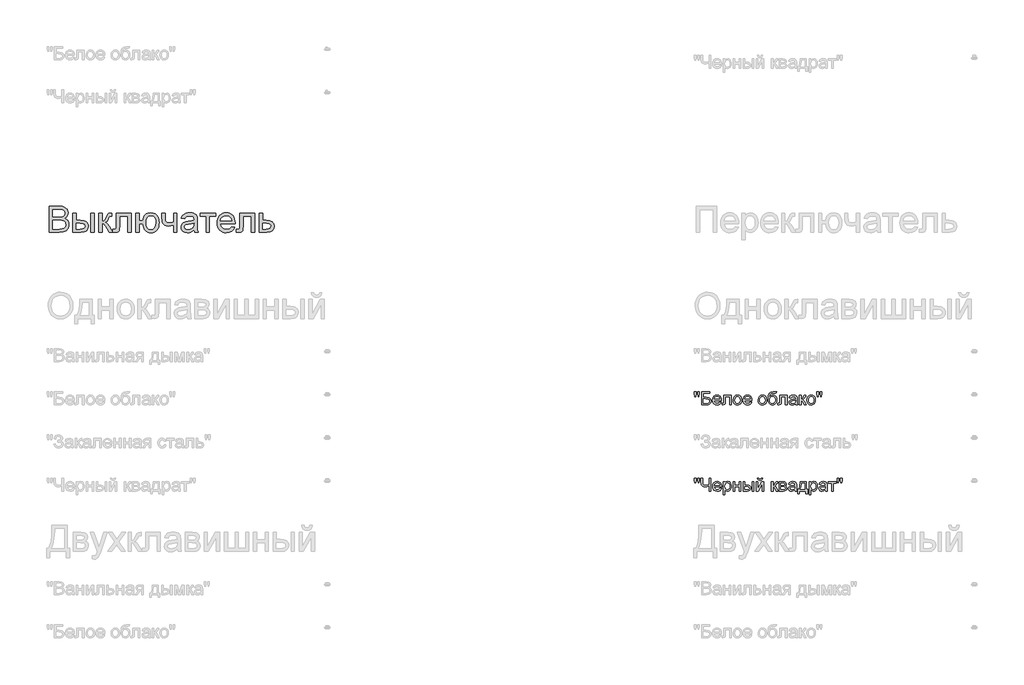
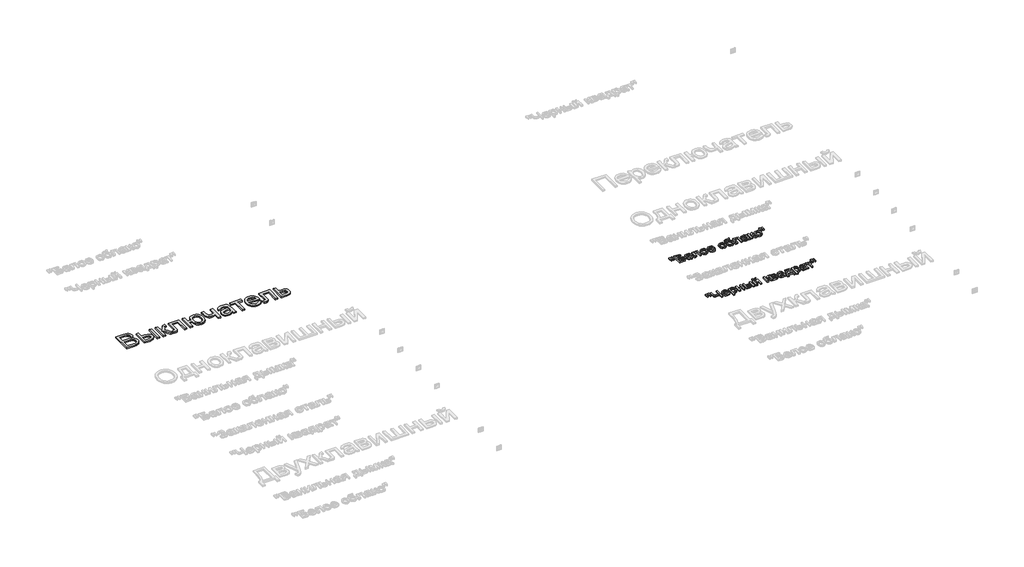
# One storey, part 137 of 168: 3 proxies.
"""IFC4 building model written with IfcOpenShell, lengths in millimetres."""

import ifcopenshell
import ifcopenshell.guid

model = None  # the IFC model being written
_history = None  # IfcOwnerHistory: only IFC2X3 demands one
_inside = {}  # id of a spatial element -> (the spatial element, [elements in it])
_under = {}  # id of a project, library or spatial element -> (it, [spatial elements below it])
_declared = {}  # id of a project -> (the project, [libraries it declares])
_typed = {}  # id of a type object -> (the type object, [elements of that type])
_made_of = {}  # id of a material, layer set ... -> (it, [elements and type objects made of it])


def new_model(schema):
    """Start an empty IFC model of exactly this schema.

    Asked for "IFC4X3", IfcOpenShell would pick the latest addendum, in which some entities
    have other attributes; the version numbers below select the first issue.
    IFC2X3 requires an IfcOwnerHistory on every rooted entity: one is made here for all.
    """
    global model, _history
    if schema == "IFC4X3":
        model = ifcopenshell.file(schema_version=(4, 3, 0, 0))
    else:
        model = ifcopenshell.file(schema=schema)
    _inside.clear()
    _under.clear()
    _declared.clear()
    _typed.clear()
    _made_of.clear()
    _history = None
    if model.schema == "IFC2X3":
        org = make("IfcOrganization", Name="unknown")
        user = make(
            "IfcPersonAndOrganization",
            ThePerson=make("IfcPerson", FamilyName="unknown"),
            TheOrganization=org,
        )
        app = make(
            "IfcApplication",
            ApplicationDeveloper=org,
            Version="unknown",
            ApplicationFullName="unknown",
            ApplicationIdentifier="unknown",
        )
        _history = make(
            "IfcOwnerHistory",
            OwningUser=user,
            OwningApplication=app,
            ChangeAction="ADDED",
            CreationDate=0,
        )
    return model


def make(cls, **values):
    """One entity of the class cls with the attributes given. An attribute that is None is left unset."""
    return model.create_entity(
        cls, **{name: value for name, value in values.items() if value is not None}
    )


def rooted(cls, **values):
    """An entity with a GlobalId (a new one), such as an element, a storey or a relation."""
    return make(cls, GlobalId=ifcopenshell.guid.new(), OwnerHistory=_history, **values)


def si_unit(unit_type, name, prefix=None):
    """IfcSIUnit, for example si_unit("LENGTHUNIT", "METRE", prefix="MILLI")."""
    return make("IfcSIUnit", UnitType=unit_type, Prefix=prefix, Name=name)


def assignment(units):
    """IfcUnitAssignment: the units of a project."""
    return None if units is None else make("IfcUnitAssignment", Units=units)


def point(xyz):
    """IfcCartesianPoint."""
    return None if xyz is None else make("IfcCartesianPoint", Coordinates=xyz)


def direction(xyz):
    """IfcDirection."""
    return None if xyz is None else make("IfcDirection", DirectionRatios=xyz)


def frame(location, z_axis=None, x_axis=None):
    """IfcAxis2Placement3D, a coordinate frame: its origin and axes. An axis left out is left unset."""
    return make(
        "IfcAxis2Placement3D",
        Location=point(location),
        Axis=direction(z_axis),
        RefDirection=direction(x_axis),
    )


def origin():
    """The frame at (0, 0, 0) with its axes left unset."""
    return frame((0.0, 0.0, 0.0))


def origin_with_axes():
    """The frame at (0, 0, 0) with the z axis (0, 0, 1) and the x axis (1, 0, 0) written out."""
    return frame((0.0, 0.0, 0.0), z_axis=(0.0, 0.0, 1.0), x_axis=(1.0, 0.0, 0.0))


def place(relative_to, where):
    """IfcLocalPlacement: puts the frame where relative to a parent placement (None: the world)."""
    return make(
        "IfcLocalPlacement", PlacementRelTo=relative_to, RelativePlacement=where
    )


def context(
    kind, dimensions, precision=None, world=None, true_north=None, identifier=None
):
    """IfcGeometricRepresentationContext, for example the 3D "Model" context."""
    return make(
        "IfcGeometricRepresentationContext",
        ContextIdentifier=identifier,
        ContextType=kind,
        CoordinateSpaceDimension=dimensions,
        Precision=precision,
        WorldCoordinateSystem=world,
        TrueNorth=true_north,
    )


def project(units=None, contexts=None):
    """IfcProject with its units and contexts."""
    return rooted(
        "IfcProject",
        Name="project",
        RepresentationContexts=contexts,
        UnitsInContext=assignment(units),
    )


def spatial(cls, under=None, at=None, **own):
    """A site, building, storey or space (cls), placed at a placement, below another one or the project."""
    s = rooted(cls, ObjectPlacement=at, **own)
    if under is not None:
        _under.setdefault(under.id(), (under, []))[1].append(s)
    return s


def polyline(points):
    """IfcPolyline through the points."""
    return make("IfcPolyline", Points=[point(p) for p in points])


def outline(outer, holes=None, kind="AREA"):
    """IfcArbitraryClosedProfileDef: a profile drawn as a closed curve; with holes, ...WithVoids."""
    if holes is None:
        return make("IfcArbitraryClosedProfileDef", ProfileType=kind, OuterCurve=outer)
    return make(
        "IfcArbitraryProfileDefWithVoids",
        ProfileType=kind,
        OuterCurve=outer,
        InnerCurves=holes,
    )


def extrude(swept, where, along, depth):
    """IfcExtrudedAreaSolid: the profile swept, set in the frame where, extruded along a direction by depth."""
    return make(
        "IfcExtrudedAreaSolid",
        SweptArea=swept,
        Position=where,
        ExtrudedDirection=direction(along),
        Depth=depth,
    )


def shape(context_of_items, identifier, shape_type, items):
    """IfcShapeRepresentation: the items that make up one representation, for example the "Body"."""
    return make(
        "IfcShapeRepresentation",
        ContextOfItems=context_of_items,
        RepresentationIdentifier=identifier,
        RepresentationType=shape_type,
        Items=items,
    )


def made_of(thing, what):
    """Note that an element or type object is made of a material, layer set ...; save() writes the relation."""
    if what is not None:
        _made_of.setdefault(what.id(), (what, []))[1].append(thing)
    return thing


def element(
    cls,
    number,
    at=None,
    inside=None,
    cuts=None,
    type_object=None,
    material=None,
    context=None,
    identifier="Body",
    shape_type=None,
    held_by="IfcProductDefinitionShape",
    body=None,
    shapes=None,
    **own,
):
    """One element of the class cls, such as IfcWall. Its Tag is "e" and its number.

    at: its placement. inside: the storey or other place that contains it. cuts: it is an
    opening in that element (IfcRelVoidsElement). A single representation is given by context,
    identifier, shape_type and body (its items); several are given by shapes. held_by: the class
    of the entity that holds the representations. save() writes the other relations.
    """
    e = rooted(cls, Tag="e%d" % number, ObjectPlacement=at, **own)
    if body is not None:
        shapes = [shape(context, identifier, shape_type, body)]
    if shapes is not None:
        e.Representation = make(held_by, Representations=shapes)
    if inside is not None:
        _inside.setdefault(inside.id(), (inside, []))[1].append(e)
    if cuts is not None:
        rooted(
            "IfcRelVoidsElement", RelatingBuildingElement=cuts, RelatedOpeningElement=e
        )
    if type_object is not None:
        _typed.setdefault(type_object.id(), (type_object, []))[1].append(e)
    return made_of(e, material)


def aggregate(whole, parts):
    """IfcRelAggregates: a whole, such as a stair, and the parts it consists of."""
    return rooted("IfcRelAggregates", RelatingObject=whole, RelatedObjects=parts)


def save(model, path):
    """Write the relations noted so far, then the file.

    IfcRelAggregates (storeys below a building ...), IfcRelContainedInSpatialStructure (elements
    in a storey), IfcRelDefinesByType, IfcRelAssociatesMaterial and IfcRelDeclares: one each for
    every whole, place, type object, material and project.
    """
    for whole, parts in _under.values():
        aggregate(whole, parts)
    for where, things in _inside.values():
        rooted(
            "IfcRelContainedInSpatialStructure",
            RelatedElements=things,
            RelatingStructure=where,
        )
    for kind, things in _typed.values():
        rooted("IfcRelDefinesByType", RelatedObjects=things, RelatingType=kind)
    for what, things in _made_of.values():
        rooted("IfcRelAssociatesMaterial", RelatedObjects=things, RelatingMaterial=what)
    for by, libraries in _declared.values():
        rooted("IfcRelDeclares", RelatingContext=by, RelatedDefinitions=libraries)
    model.write(path)


model = new_model("IFC4")

# Units and contexts
model_context = context("Model", 3, world=origin())
ifc_project = project(units=[si_unit("LENGTHUNIT", "METRE", prefix="MILLI")], contexts=[model_context])

# Site, building, storey
site = spatial("IfcSite", under=ifc_project)
building = spatial("IfcBuilding", under=site)
storey = spatial("IfcBuildingStorey", under=building, Name="Этаж 01", Elevation=0.0)

# Proxies
placement = place(None, origin())
element("IfcBuildingElementProxy", 1, Name="300 мм Arial 2", ObjectType="300 мм Arial 2", at=placement, inside=storey, context=model_context, shape_type="SweptSolid", body=[
    extrude(outline(polyline([(63599.0945017, -19848.4056816), (63599.0945017, -19547.0367511), (63714.0944134, -19547.0367511), (63745.7230679, -19549.2532401), (63770.4171468, -19555.9027072), (63789.3446755, -19567.1506992), (63803.6736792, -19583.162763), (63812.6959851, -19601.9983212), (63815.7034204, -19621.7167961), (63813.1742317, -19639.8625756), (63805.5866656, -19656.9231031), (63792.8855397, -19671.849915), (63775.0156718, -19683.5945477), (63796.3620245, -19694.7413722), (63812.1349651, -19711.7007322), (63821.8746409, -19733.3505876), (63825.1211995, -19758.5688983), (63822.9047105, -19779.5841573), (63816.2552434, -19799.072706), (63806.3316266, -19815.6457899), (63794.2926883, -19827.9146544), (63779.5498173, -19836.7990046), (63761.5144025, -19843.2185454), (63713.2114966, -19848.4056816), (63599.0945017, -19848.4056816)]), holes=[polyline([(63636.765618, -19669.4678791), (63705.5595511, -19669.4678791), (63745.7322649, -19666.2305176), (63759.7945542, -19660.6479083), (63769.902112, -19652.2877899), (63775.9997561, -19641.2789212), (63778.0323041, -19627.7500609), (63776.1377118, -19614.6166736), (63770.453935, -19603.1755436), (63761.238491, -19594.2452082), (63748.7488973, -19588.6442048), (63700.3356267, -19584.7078674), (63636.765618, -19584.7078674), (63636.765618, -19669.4678791)]), polyline([(63636.765618, -19810.7345653), (63714.020837, -19810.7345653), (63741.9798686, -19809.2630373), (63765.6346809, -19801.0592688), (63781.3064539, -19784.320638), (63785.9141759, -19772.4932319), (63787.4500832, -19758.9367803), (63785.6474614, -19743.1914309), (63780.2395961, -19729.6533735), (63770.7942259, -19719.0675691), (63756.8790894, -19712.1789788), (63737.1698115, -19708.3989913), (63710.342017, -19707.1389954), (63636.765618, -19707.1389954), (63636.765618, -19810.7345653)])]), origin_with_axes(), (0.0, 0.0, 1.0), 20.0),
    extrude(outline(polyline([(64079.4012346, -19627.0878733), (64117.0723509, -19627.0878733), (64117.0723509, -19848.4056816), (64079.4012346, -19848.4056816), (64079.4012346, -19627.0878733)])), origin_with_axes(), (0.0, 0.0, 1.0), 20.0),
    extrude(outline(polyline([(63872.2100949, -19627.0878733), (63909.8812112, -19627.0878733), (63909.8812112, -19707.1389954), (63956.4550718, -19707.1389954), (63996.7105591, -19711.857082), (64012.9272573, -19717.7546902), (64026.5365919, -19726.0113418), (64037.304038, -19736.3419281), (64044.995071, -19748.4613405), (64049.6096907, -19762.3695792), (64051.1478973, -19778.0666441), (64045.9883523, -19805.0231973), (64030.5097174, -19827.7675016), (64018.6478223, -19836.7967054), (64003.700317, -19843.2461366), (63964.5484757, -19848.4056816), (63872.2100949, -19848.4056816), (63872.2100949, -19627.0878733)]), holes=[polyline([(63909.8812112, -19810.7345653), (63948.5823971, -19810.7345653), (63978.5831738, -19808.7571995), (63998.540772, -19802.8251024), (64009.7427788, -19792.6991504), (64013.476781, -19778.1402205), (64010.708469, -19765.8345678), (64002.403533, -19754.9636548), (63984.6440297, -19747.3484975), (63953.5120158, -19744.8101117), (63909.8812112, -19744.8101117), (63909.8812112, -19810.7345653)])]), origin_with_axes(), (0.0, 0.0, 1.0), 20.0),
    extrude(outline(polyline([(64376.0612755, -19627.0878733), (64545.5812988, -19627.0878733), (64545.5812988, -19848.1849524), (64507.9101825, -19848.1849524), (64507.9101825, -19664.7589896), (64413.7323918, -19664.7589896), (64413.7323918, -19770.3411222), (64411.194006, -19819.0486984), (64406.4391312, -19830.0759612), (64397.2512784, -19839.6133019), (64383.3085508, -19846.2075866), (64364.2890516, -19848.4056816), (64333.6812696, -19846.4926952), (64333.6812696, -19810.7345653), (64350.530265, -19810.7345653), (64367.5632014, -19808.4169087), (64374.3690183, -19801.0592688), (64376.0612755, -19768.2074066), (64376.0612755, -19627.0878733)])), origin_with_axes(), (0.0, 0.0, 1.0), 20.0),
    extrude(outline(polyline([(64173.5790253, -19627.0878733), (64211.2501416, -19627.0878733), (64211.2501416, -19721.265664), (64226.5724267, -19719.5734069), (64236.4868465, -19714.4966353), (64245.2608321, -19701.2528835), (64257.1618146, -19675.0596854), (64274.3419038, -19641.0306009), (64289.498642, -19629.9573528), (64317.0530034, -19627.0878733), (64324.2634906, -19627.0878733), (64324.2634906, -19664.9797188), (64314.1099475, -19664.7589896), (64295.7158477, -19668.7321151), (64282.7664015, -19693.5273616), (64267.5728751, -19720.345959), (64246.2725076, -19733.4793463), (64258.2102783, -19738.7814455), (64270.0376845, -19748.1394438), (64293.361403, -19779.0231373), (64333.6812696, -19848.4056816), (64290.8598054, -19848.4056816), (64251.3492791, -19780.4946653), (64231.4836514, -19751.7630814), (64222.194631, -19746.5483542), (64211.2501416, -19744.8101117), (64211.2501416, -19848.4056816), (64173.5790253, -19848.4056816), (64173.5790253, -19627.0878733)])), origin_with_axes(), (0.0, 0.0, 1.0), 20.0),
    extrude(outline(polyline([(64602.0879733, -19627.0878733), (64639.7590896, -19627.0878733), (64639.7590896, -19711.847885), (64682.1390955, -19711.847885), (64691.9155595, -19673.4410047), (64700.4389255, -19658.1003255), (64711.3857141, -19645.3348202), (64724.4478242, -19635.2916418), (64739.3171546, -19628.1179429), (64774.4774762, -19622.3789837), (64804.0275975, -19625.754301), (64826.606355, -19635.880253), (64844.0255674, -19651.929105), (64858.0970538, -19673.0731227), (64867.3952712, -19700.8850015), (64870.494677, -19736.937437), (64868.892091, -19763.7928227), (64864.0843332, -19787.1901176), (64856.0714035, -19807.1293217), (64844.8533019, -19823.6104351), (64830.8898809, -19836.5184946), (64814.6409931, -19845.7385371), (64796.1066383, -19851.2705626), (64775.2868166, -19853.1145711), (64755.8833407, -19851.3855257), (64738.5078142, -19846.1983896), (64723.1602372, -19837.5531627), (64709.8406097, -19825.4498451), (64698.8800255, -19810.3298951), (64690.6095784, -19792.6347711), (64682.1390955, -19749.5190013), (64639.7590896, -19749.5190013), (64639.7590896, -19848.4056816), (64602.0879733, -19848.4056816), (64602.0879733, -19627.0878733)]), holes=[polyline([(64776.9054974, -19660.0501), (64752.8920002, -19664.9245365), (64734.8565854, -19679.5478458), (64723.5718052, -19702.9635348), (64719.8102118, -19734.2151103), (64723.5993963, -19770.6262307), (64734.96695, -19795.8353445), (64752.680468, -19810.5414272), (64775.5075458, -19815.4434548), (64798.399003, -19810.9093092), (64816.7471175, -19797.3068724), (64828.8044499, -19773.6060749), (64832.8235607, -19738.776847), (64829.3470758, -19704.3338952), (64818.9176213, -19679.7317868), (64801.4616206, -19664.9705217), (64776.9054974, -19660.0501)])]), origin_with_axes(), (0.0, 0.0, 1.0), 20.0),
    extrude(outline(polyline([(64903.4569038, -19627.0878733), (64941.1280201, -19627.0878733), (64941.1280201, -19669.5414555), (64944.1814406, -19709.3462874), (64949.3777738, -19720.9161761), (64958.8599322, -19730.9041723), (64971.9565313, -19737.8019597), (64987.9961862, -19740.1012222), (65011.0439932, -19737.2501367), (65040.0147004, -19728.6968803), (65040.0147004, -19627.0878733), (65077.6858167, -19627.0878733), (65077.6858167, -19848.4056816), (65040.0147004, -19848.4056816), (65040.0147004, -19764.8228923), (65007.861814, -19774.5349769), (64977.9162196, -19777.7723385), (64955.135127, -19774.3970212), (64935.2051199, -19764.2710693), (64919.6713027, -19749.2522868), (64910.0787797, -19731.1984779), (64905.1123727, -19710.6522685), (64903.4569038, -19688.1562845), (64903.4569038, -19627.0878733)])), origin_with_axes(), (0.0, 0.0, 1.0), 20.0),
    extrude(outline(polyline([(65275.4591773, -19820.1523443), (65257.4605507, -19835.584994), (65238.9284952, -19845.6833548), (65219.4399465, -19851.256767), (65198.5718403, -19853.1145711), (65167.0903386, -19848.6448049), (65143.8677876, -19835.2355061), (65129.5479809, -19814.8732377), (65124.7747121, -19789.5445623), (65126.5773338, -19773.9279716), (65131.9851992, -19759.7461207), (65140.3269234, -19747.6060149), (65150.9311219, -19738.1146594), (65177.308261, -19725.7538244), (65209.9026057, -19720.0884417), (65248.4198506, -19714.1287533), (65275.2384481, -19707.1389954), (65275.4591773, -19698.7512859), (65272.8656092, -19681.9390788), (65265.084905, -19670.9394071), (65247.6840866, -19662.7724268), (65223.4406632, -19660.0501), (65200.9998615, -19661.8619189), (65185.3280885, -19667.2973753), (65174.6411165, -19677.3497509), (65167.1547179, -19693.0123268), (65129.4836016, -19688.3034373), (65136.0227041, -19667.7020455), (65145.780774, -19651.5152378), (65159.6683193, -19639.1360086), (65178.5958479, -19629.9573528), (65201.7448225, -19624.273576), (65228.2967055, -19622.3789837), (65253.7633366, -19624.0528468), (65273.9508611, -19629.074436), (65289.1719786, -19636.625214), (65299.739389, -19645.8866432), (65306.747541, -19657.3369703), (65311.2908836, -19671.4544419), (65313.1302936, -19704.4166687), (65313.1302936, -19751.2848348), (65315.04328, -19816.7310418), (65322.5480727, -19848.4056816), (65284.8769564, -19848.4056816), (65275.4591773, -19820.1523443)]), holes=[polyline([(65275.4591773, -19744.8101117), (65214.6850717, -19756.3616064), (65182.2746679, -19762.4684475), (65167.5961763, -19772.4012614), (65162.4458284, -19786.895812), (65165.2509286, -19798.0978187), (65173.6662292, -19807.2764745), (65187.5077893, -19813.4017097), (65206.5916678, -19815.4434548), (65226.8251775, -19813.1901776), (65244.7042425, -19806.4303459), (65259.1987931, -19796.4699409), (65269.2787598, -19784.6149436), (65273.748526, -19772.4012614), (65275.2384481, -19755.4786896), (65275.4591773, -19744.8101117)])]), origin_with_axes(), (0.0, 0.0, 1.0), 20.0),
    extrude(outline(polyline([(65346.0925204, -19627.0878733), (65525.0303228, -19627.0878733), (65525.0303228, -19664.7589896), (65454.3969797, -19664.7589896), (65454.3969797, -19848.4056816), (65416.7258634, -19848.4056816), (65416.7258634, -19664.7589896), (65346.0925204, -19664.7589896), (65346.0925204, -19627.0878733)])), origin_with_axes(), (0.0, 0.0, 1.0), 20.0),
    extrude(outline(polyline([(65712.9444459, -19782.481228), (65749.8797983, -19787.1901176), (65736.5716671, -19815.0203905), (65715.3356789, -19835.8241173), (65686.6500803, -19848.7919577), (65650.993118, -19853.1145711), (65627.6188157, -19851.2498692), (65606.7920962, -19845.6557637), (65588.5129596, -19836.3322543), (65572.7814058, -19823.2793413), (65560.1308637, -19806.860308), (65551.0947622, -19787.4384379), (65545.6731013, -19765.013731), (65543.865881, -19739.5861874), (65545.6914954, -19713.2964203), (65551.1683386, -19690.1244531), (65560.2964106, -19670.0702859), (65573.0757114, -19653.1339185), (65588.7658785, -19639.6786346), (65606.6265493, -19630.0677174), (65626.657724, -19624.3011672), (65648.8594024, -19622.3789837), (65670.3460102, -19624.2965686), (65689.7770773, -19630.0493233), (65707.1526038, -19639.6372478), (65722.4725896, -19653.0603421), (65734.9782782, -19669.9599213), (65743.9109129, -19689.9773003), (65749.2704937, -19713.1124793), (65751.0570206, -19739.3654582), (65750.8362914, -19749.5190013), (65581.5369973, -19749.5190013), (65588.0577056, -19777.7171562), (65603.2052468, -19798.4473066), (65625.0666343, -19811.1944178), (65651.7288819, -19815.4434548), (65671.7784507, -19813.4752861), (65688.6642343, -19807.5707801), (65702.3862327, -19797.3620547), (65712.9444459, -19782.481228)]), holes=[polyline([(65581.5369973, -19711.847885), (65713.3859043, -19711.847885), (65708.2907387, -19691.945469), (65698.3027425, -19677.7084358), (65676.3401874, -19664.464684), (65648.7122496, -19660.0501), (65623.3191949, -19663.5725701), (65602.32233, -19674.1399805), (65587.7266118, -19690.6118968), (65581.5369973, -19711.847885)])]), origin_with_axes(), (0.0, 0.0, 1.0), 20.0),
    extrude(outline(polyline([(65807.5636951, -19627.0878733), (65977.0837185, -19627.0878733), (65977.0837185, -19848.1849524), (65939.4126022, -19848.1849524), (65939.4126022, -19664.7589896), (65845.2348114, -19664.7589896), (65845.2348114, -19770.3411222), (65842.6964256, -19819.0486984), (65837.9415509, -19830.0759612), (65828.753698, -19839.6133019), (65814.8109704, -19846.2075866), (65795.7914713, -19848.4056816), (65765.1836893, -19846.4926952), (65765.1836893, -19810.7345653), (65782.0326846, -19810.7345653), (65799.065621, -19808.4169087), (65805.8714379, -19801.0592688), (65807.5636951, -19768.2074066), (65807.5636951, -19627.0878733)])), origin_with_axes(), (0.0, 0.0, 1.0), 20.0),
    extrude(outline(polyline([(66033.5903929, -19627.0878733), (66071.2615092, -19627.0878733), (66071.2615092, -19707.1389954), (66114.6715847, -19707.1389954), (66152.3059128, -19711.857082), (66167.4534539, -19717.7546902), (66180.1545798, -19726.0113418), (66190.1977583, -19736.3419281), (66197.3714572, -19748.4613405), (66203.1104163, -19778.0666441), (66198.2267828, -19805.0231973), (66183.5758824, -19827.7675016), (66172.3439852, -19836.7967054), (66158.1828277, -19843.2461366), (66121.0727314, -19848.4056816), (66033.5903929, -19848.4056816), (66033.5903929, -19627.0878733)]), holes=[polyline([(66071.2615092, -19810.7345653), (66106.431028, -19810.7345653), (66133.718675, -19808.7571995), (66151.8644544, -19802.8251024), (66162.0455886, -19792.6991504), (66165.4393, -19778.1402205), (66162.9285054, -19765.8345678), (66155.3961215, -19754.9636548), (66139.255299, -19747.3484975), (66110.9191883, -19744.8101117), (66071.2615092, -19744.8101117), (66071.2615092, -19810.7345653)])]), origin_with_axes(), (0.0, 0.0, 1.0), 20.0),
])
element("IfcBuildingElementProxy", 2, Name="150", ObjectType="150", at=placement, inside=storey, context=model_context, shape_type="SweptSolid", body=[
    extrude(outline(polyline([(71080.1485789, -21751.873446), (71075.550054, -21722.7739802), (71075.550054, -21697.7212163), (71094.3856121, -21697.7212163), (71094.3856121, -21722.7739802), (71090.2653338, -21751.873446), (71080.1485789, -21751.873446)])), origin_with_axes(), (0.0, 0.0, 1.0), 20.0),
    extrude(outline(polyline([(71117.7093306, -21751.873446), (71113.2211703, -21722.7739802), (71113.2211703, -21697.7212163), (71132.0567284, -21697.7212163), (71132.0567284, -21722.7739802), (71127.6421445, -21751.873446), (71117.7093306, -21751.873446)])), origin_with_axes(), (0.0, 0.0, 1.0), 20.0),
    extrude(outline(polyline([(71157.9556209, -21697.7212163), (71252.1334117, -21697.7212163), (71252.1334117, -21716.5567745), (71176.791179, -21716.5567745), (71176.791179, -21761.2912251), (71212.0710624, -21761.2912251), (71243.157091, -21765.1171979), (71253.5589544, -21770.6446248), (71261.6615553, -21779.5749603), (71266.8762826, -21791.0712726), (71268.614525, -21804.2966303), (71263.6665122, -21825.7625448), (71248.8960501, -21842.0781113), (71235.6247071, -21846.823789), (71215.4555767, -21848.4056816), (71157.9556209, -21848.4056816), (71157.9556209, -21697.7212163)]), holes=[polyline([(71176.791179, -21829.5701234), (71217.1478339, -21829.5701234), (71231.4124583, -21828.015822), (71241.6119866, -21823.3529177), (71247.7372218, -21815.5814105), (71249.7789669, -21804.7013005), (71245.1068655, -21789.9492325), (71232.102237, -21782.0765578), (71203.7201411, -21780.1267833), (71176.791179, -21780.1267833), (71176.791179, -21829.5701234)])]), origin_with_axes(), (0.0, 0.0, 1.0), 20.0),
    extrude(outline(polyline([(71369.6349209, -21815.4434548), (71388.1025971, -21817.7978996), (71381.4485315, -21831.713036), (71370.8305374, -21842.1148995), (71356.4877381, -21848.5988196), (71338.6592569, -21850.7601263), (71316.5587461, -21847.0307226), (71299.5534008, -21835.8425114), (71288.710079, -21817.9220597), (71285.0956384, -21793.9959345), (71288.7468672, -21769.2650674), (71299.7005536, -21750.7698), (71316.4759726, -21739.2366995), (71337.5923991, -21735.3923327), (71358.0512366, -21739.2275025), (71374.3989927, -21750.7330118), (71385.1181544, -21769.191491), (71388.6912083, -21793.8855699), (71388.5808437, -21798.9623414), (71303.9311966, -21798.9623414), (71307.1915508, -21813.0614189), (71314.7653213, -21823.4264941), (71325.6960151, -21829.8000497), (71339.0271389, -21831.9245682), (71357.4948151, -21827.9882308), (71369.6349209, -21815.4434548)]), holes=[polyline([(71303.9311966, -21780.1267833), (71369.8556501, -21780.1267833), (71367.3080673, -21770.1755753), (71362.3140692, -21763.0570587), (71351.3327917, -21756.4351828), (71337.5188227, -21754.2278908), (71324.8222954, -21755.9891259), (71314.3238629, -21761.272831), (71307.0260039, -21769.5087892), (71303.9311966, -21780.1267833)])]), origin_with_axes(), (0.0, 0.0, 1.0), 20.0),
    extrude(outline(polyline([(71416.9445455, -21737.7467774), (71501.7045572, -21737.7467774), (71501.7045572, -21848.295317), (71482.868999, -21848.295317), (71482.868999, -21756.5823356), (71435.7801036, -21756.5823356), (71435.7801036, -21809.3734019), (71434.5109108, -21833.72719), (71427.539547, -21844.0094917), (71411.0584336, -21848.4056816), (71395.7545426, -21847.4491884), (71395.7545426, -21829.5701234), (71404.1790403, -21829.5701234), (71412.6955084, -21828.4112951), (71416.0984169, -21824.7324752), (71416.9445455, -21808.3065441), (71416.9445455, -21737.7467774)])), origin_with_axes(), (0.0, 0.0, 1.0), 20.0),
    extrude(outline(polyline([(71525.2490049, -21793.0762295), (71529.323298, -21766.3955878), (71541.5461773, -21747.6428031), (71556.6477332, -21738.4549503), (71574.7291332, -21735.3923327), (71594.516586, -21739.1217364), (71610.3217163, -21750.3099476), (71620.6821929, -21768.0740494), (71624.1356852, -21791.5311251), (71622.6089749, -21810.5598213), (71618.0288441, -21825.0451749), (71610.5286499, -21835.8930952), (71600.2417496, -21844.0094917), (71588.0234688, -21849.0724677), (71574.7291332, -21850.7601263), (71554.7025571, -21847.0445182), (71538.915821, -21835.8976937), (71528.6657089, -21817.7611114), (71525.2490049, -21793.0762295)]), holes=[polyline([(71544.084563, -21793.0394413), (71546.2642638, -21810.0861732), (71552.8033663, -21822.2308776), (71562.6442097, -21829.5011455), (71574.7291332, -21831.9245682), (71586.7588745, -21829.48735), (71596.5813237, -21822.1756953), (71603.1204262, -21809.8700426), (71605.300127, -21792.4508301), (71603.1066306, -21775.9007388), (71596.5261414, -21763.9215814), (71586.6898966, -21756.6513134), (71574.7291332, -21754.2278908), (71562.6442097, -21756.6421164), (71552.8033663, -21763.8847932), (71546.2642638, -21776.0019064), (71544.084563, -21793.0394413)])]), origin_with_axes(), (0.0, 0.0, 1.0), 20.0),
    extrude(outline(polyline([(71722.8016363, -21815.4434548), (71741.2693124, -21817.7978996), (71734.6152469, -21831.713036), (71723.9972528, -21842.1148995), (71709.6544535, -21848.5988196), (71691.8259723, -21850.7601263), (71669.7254614, -21847.0307226), (71652.7201162, -21835.8425114), (71641.8767944, -21817.9220597), (71638.2623538, -21793.9959345), (71641.9135826, -21769.2650674), (71652.867269, -21750.7698), (71669.642688, -21739.2366995), (71690.7591145, -21735.3923327), (71711.217952, -21739.2275025), (71727.5657081, -21750.7330118), (71738.2848698, -21769.191491), (71741.8579236, -21793.8855699), (71741.747559, -21798.9623414), (71657.0979119, -21798.9623414), (71660.3582661, -21813.0614189), (71667.9320367, -21823.4264941), (71678.8627305, -21829.8000497), (71692.1938543, -21831.9245682), (71710.6615304, -21827.9882308), (71722.8016363, -21815.4434548)]), holes=[polyline([(71657.0979119, -21780.1267833), (71723.0223655, -21780.1267833), (71720.4747827, -21770.1755753), (71715.4807846, -21763.0570587), (71704.499507, -21756.4351828), (71690.6855381, -21754.2278908), (71677.9890107, -21755.9891259), (71667.4905783, -21761.272831), (71660.1927192, -21769.5087892), (71657.0979119, -21780.1267833)])]), origin_with_axes(), (0.0, 0.0, 1.0), 20.0),
    extrude(outline(polyline([(71814.8457115, -21793.0762295), (71818.9200046, -21766.3955878), (71831.1428839, -21747.6428031), (71846.2444398, -21738.4549503), (71864.3258398, -21735.3923327), (71884.1132926, -21739.1217364), (71899.9184229, -21750.3099476), (71910.2788995, -21768.0740494), (71913.7323918, -21791.5311251), (71912.2056815, -21810.5598213), (71907.6255507, -21825.0451749), (71900.1253565, -21835.8930952), (71889.8384562, -21844.0094917), (71877.6201754, -21849.0724677), (71864.3258398, -21850.7601263), (71844.2992637, -21847.0445182), (71828.5125276, -21835.8976937), (71818.2624155, -21817.7611114), (71814.8457115, -21793.0762295)]), holes=[polyline([(71833.6812696, -21793.0394413), (71835.8609704, -21810.0861732), (71842.4000729, -21822.2308776), (71852.2409163, -21829.5011455), (71864.3258398, -21831.9245682), (71876.3555811, -21829.48735), (71886.1780303, -21822.1756953), (71892.7171328, -21809.8700426), (71894.8968336, -21792.4508301), (71892.7033372, -21775.9007388), (71886.122848, -21763.9215814), (71876.2866032, -21756.6513134), (71864.3258398, -21754.2278908), (71852.2409163, -21756.6421164), (71842.4000729, -21763.8847932), (71835.8609704, -21776.0019064), (71833.6812696, -21793.0394413)])]), origin_with_axes(), (0.0, 0.0, 1.0), 20.0),
    extrude(outline(polyline([(72012.6190721, -21695.3667716), (72029.1001855, -21695.3667716), (72024.2441431, -21710.0636573), (72014.6424231, -21715.3795521), (71991.576222, -21716.5567745), (71960.5085875, -21720.897782), (71953.3808738, -21726.5447707), (71948.5892108, -21734.8037215), (71944.560903, -21759.4150269), (71960.8764695, -21741.3888092), (71970.7954878, -21736.8914518), (71981.9009255, -21735.3923327), (72001.4998388, -21739.2045098), (72017.401538, -21750.6410414), (72027.9413572, -21768.5798871), (72031.4546302, -21791.8990071), (72029.7117893, -21809.8792396), (72024.4832664, -21824.3094109), (72007.9469707, -21843.8623389), (71996.6529935, -21849.0356795), (71981.9009255, -21850.7601263), (71964.9001788, -21848.5390388), (71952.1576662, -21841.8757762), (71942.7812738, -21831.7498242), (71935.8788879, -21819.1406689), (71931.6298508, -21800.1533594), (71930.2135052, -21770.8929452), (71933.786559, -21734.7531377), (71944.5057207, -21712.7124076), (71962.6377045, -21701.4690142), (71988.449225, -21697.7212163), (72009.4184987, -21697.2981521), (72012.6190721, -21695.3667716)]), holes=[polyline([(72012.6190721, -21791.3103959), (72010.577327, -21776.48935), (72004.4520918, -21764.6205572), (71994.6112484, -21756.8260574), (71981.4226789, -21754.2278908), (71967.6730893, -21756.9732102), (71957.473561, -21765.2091684), (71951.1551877, -21778.0344544), (71949.0490633, -21794.5477575), (71951.3759169, -21810.5552228), (71958.3564778, -21822.304454), (71968.7491442, -21829.5195396), (71981.3123143, -21831.9245682), (71993.9398638, -21829.1424606), (72003.937057, -21820.7961378), (72010.4485683, -21807.8604872), (72012.6190721, -21791.3103959)])]), origin_with_axes(), (0.0, 0.0, 1.0), 20.0),
    extrude(outline(polyline([(72064.416857, -21737.7467774), (72149.1768687, -21737.7467774), (72149.1768687, -21848.295317), (72130.3413105, -21848.295317), (72130.3413105, -21756.5823356), (72083.2524152, -21756.5823356), (72083.2524152, -21809.3734019), (72081.9832223, -21833.72719), (72075.0118585, -21844.0094917), (72058.5307451, -21848.4056816), (72043.2268541, -21847.4491884), (72043.2268541, -21829.5701234), (72051.6513518, -21829.5701234), (72060.16782, -21828.4112951), (72063.5707284, -21824.7324752), (72064.416857, -21808.3065441), (72064.416857, -21737.7467774)])), origin_with_axes(), (0.0, 0.0, 1.0), 20.0),
    extrude(outline(polyline([(72248.063549, -21834.279013), (72229.7982079, -21847.0445182), (72209.6198805, -21850.7601263), (72193.8791296, -21848.5252432), (72182.2678542, -21841.8205939), (72175.1079508, -21831.6394596), (72172.7213164, -21818.975122), (72176.3265599, -21804.0759012), (72185.7995213, -21793.2601705), (72198.9880908, -21787.079753), (72215.2852632, -21784.2470616), (72247.9531844, -21777.7723385), (72248.063549, -21773.5784838), (72246.766765, -21765.1723802), (72242.8764129, -21759.6725443), (72234.1760037, -21755.5890542), (72222.0542919, -21754.2278908), (72202.9980046, -21757.8515285), (72193.9113193, -21770.7090042), (72175.0757612, -21768.3545594), (72183.2243473, -21749.9604597), (72199.6318843, -21739.1815172), (72224.4823131, -21735.3923327), (72247.3093909, -21738.7400588), (72260.2036548, -21747.1461624), (72265.9794022, -21759.9300617), (72266.8991071, -21776.4111751), (72266.8991071, -21799.8452582), (72267.8556003, -21832.5683617), (72271.6079967, -21848.4056816), (72252.7724385, -21848.4056816), (72248.063549, -21834.279013)]), holes=[polyline([(72248.063549, -21796.6078966), (72217.6764962, -21802.383644), (72201.4712943, -21805.4370645), (72194.1320485, -21810.4034715), (72191.5568745, -21817.6507468), (72197.167075, -21827.841078), (72213.6297942, -21831.9245682), (72232.6860816, -21827.4180137), (72244.9733402, -21816.5103126), (72247.9531844, -21801.9421856), (72248.063549, -21796.6078966)])]), origin_with_axes(), (0.0, 0.0, 1.0), 20.0),
    extrude(outline(polyline([(72292.7979996, -21737.7467774), (72311.6335578, -21737.7467774), (72311.6335578, -21784.8356728), (72324.2519102, -21781.4511584), (72334.5893943, -21761.7326835), (72343.1794388, -21744.7181412), (72350.7578079, -21739.1815172), (72364.5349887, -21737.7467774), (72368.1402322, -21737.7467774), (72368.1402322, -21756.6927002), (72363.0634607, -21756.5823356), (72353.8664108, -21758.5688983), (72347.3916877, -21770.9665216), (72339.7949245, -21784.3758203), (72329.1447407, -21790.9425139), (72341.0273292, -21798.2725627), (72352.6891884, -21813.7144094), (72372.8491218, -21848.4056816), (72351.4383896, -21848.4056816), (72331.6831265, -21814.4501734), (72321.7503126, -21800.0843815), (72311.6335578, -21796.6078966), (72311.6335578, -21848.4056816), (72292.7979996, -21848.4056816), (72292.7979996, -21737.7467774)])), origin_with_axes(), (0.0, 0.0, 1.0), 20.0),
    extrude(outline(polyline([(72379.9124561, -21793.0762295), (72383.9867492, -21766.3955878), (72396.2096285, -21747.6428031), (72411.3111844, -21738.4549503), (72429.3925844, -21735.3923327), (72449.1800372, -21739.1217364), (72464.9851674, -21750.3099476), (72475.3456441, -21768.0740494), (72478.7991364, -21791.5311251), (72477.2724261, -21810.5598213), (72472.6922952, -21825.0451749), (72465.1921011, -21835.8930952), (72454.9052008, -21844.0094917), (72442.68692, -21849.0724677), (72429.3925844, -21850.7601263), (72409.3660083, -21847.0445182), (72393.5792722, -21835.8976937), (72383.3291601, -21817.7611114), (72379.9124561, -21793.0762295)]), holes=[polyline([(72398.7480142, -21793.0394413), (72400.927715, -21810.0861732), (72407.4668175, -21822.2308776), (72417.3076609, -21829.5011455), (72429.3925844, -21831.9245682), (72441.4223257, -21829.48735), (72451.2447749, -21822.1756953), (72457.7838774, -21809.8700426), (72459.9635782, -21792.4508301), (72457.7700818, -21775.9007388), (72451.1895926, -21763.9215814), (72441.3533478, -21756.6513134), (72429.3925844, -21754.2278908), (72417.3076609, -21756.6421164), (72407.4668175, -21763.8847932), (72400.927715, -21776.0019064), (72398.7480142, -21793.0394413)])]), origin_with_axes(), (0.0, 0.0, 1.0), 20.0),
    extrude(outline(polyline([(72499.8787747, -21751.873446), (72495.2802498, -21722.7739802), (72495.2802498, -21697.7212163), (72514.1158079, -21697.7212163), (72514.1158079, -21722.7739802), (72509.9955296, -21751.873446), (72499.8787747, -21751.873446)])), origin_with_axes(), (0.0, 0.0, 1.0), 20.0),
    extrude(outline(polyline([(72537.4395264, -21751.873446), (72532.9513661, -21722.7739802), (72532.9513661, -21697.7212163), (72551.7869242, -21697.7212163), (72551.7869242, -21722.7739802), (72547.3723403, -21751.873446), (72537.4395264, -21751.873446)])), origin_with_axes(), (0.0, 0.0, 1.0), 20.0),
])
element("IfcBuildingElementProxy", 3, Name="150", ObjectType="150", at=placement, inside=storey, context=model_context, shape_type="SweptSolid", body=[
    extrude(outline(polyline([(71080.1485789, -22751.873446), (71075.550054, -22722.7739802), (71075.550054, -22697.7212163), (71094.3856121, -22697.7212163), (71094.3856121, -22722.7739802), (71090.2653338, -22751.873446), (71080.1485789, -22751.873446)])), origin_with_axes(), (0.0, 0.0, 1.0), 20.0),
    extrude(outline(polyline([(71117.7093306, -22751.873446), (71113.2211703, -22722.7739802), (71113.2211703, -22697.7212163), (71132.0567284, -22697.7212163), (71132.0567284, -22722.7739802), (71127.6421445, -22751.873446), (71117.7093306, -22751.873446)])), origin_with_axes(), (0.0, 0.0, 1.0), 20.0),
    extrude(outline(polyline([(71263.9056355, -22848.4056816), (71245.0700773, -22848.4056816), (71245.0700773, -22788.0730344), (71220.0908899, -22796.2400147), (71198.4226404, -22798.9623414), (71183.7395502, -22797.0999388), (71170.886673, -22791.512731), (71160.926268, -22783.0606422), (71154.9205944, -22772.6035965), (71150.8922866, -22742.6028198), (71150.8922866, -22697.7212163), (71169.7278447, -22697.7212163), (71169.7278447, -22740.064434), (71171.990319, -22760.4313009), (71178.7777418, -22772.3828673), (71188.7381468, -22778.1908043), (71200.5195677, -22780.1267833), (71222.2521966, -22777.7907326), (71245.0700773, -22770.7825806), (71245.0700773, -22697.7212163), (71263.9056355, -22697.7212163), (71263.9056355, -22848.4056816)])), origin_with_axes(), (0.0, 0.0, 1.0), 20.0),
    extrude(outline(polyline([(71371.9893657, -22815.4434548), (71390.4570418, -22817.7978996), (71383.8029763, -22831.713036), (71373.1849822, -22842.1148995), (71358.8421829, -22848.5988196), (71341.0137017, -22850.7601263), (71318.9131908, -22847.0307226), (71301.9078456, -22835.8425114), (71291.0645238, -22817.9220597), (71287.4500832, -22793.9959345), (71291.101312, -22769.2650674), (71302.0549984, -22750.7698), (71318.8304174, -22739.2366995), (71339.9468439, -22735.3923327), (71360.4056814, -22739.2275025), (71376.7534375, -22750.7330118), (71387.4725992, -22769.191491), (71391.045653, -22793.8855699), (71390.9352884, -22798.9623414), (71306.2856413, -22798.9623414), (71309.5459955, -22813.0614189), (71317.1197661, -22823.4264941), (71328.0504599, -22829.8000497), (71341.3815837, -22831.9245682), (71359.8492598, -22827.9882308), (71371.9893657, -22815.4434548)]), holes=[polyline([(71306.2856413, -22780.1267833), (71372.2100949, -22780.1267833), (71369.6625121, -22770.1755753), (71364.668514, -22763.0570587), (71353.6872364, -22756.4351828), (71339.8732675, -22754.2278908), (71327.1767401, -22755.9891259), (71316.6783077, -22761.272831), (71309.3804486, -22769.5087892), (71306.2856413, -22780.1267833)])]), origin_with_axes(), (0.0, 0.0, 1.0), 20.0),
    extrude(outline(polyline([(71409.8812112, -22890.7856874), (71409.8812112, -22737.7467774), (71428.7167693, -22737.7467774), (71428.7167693, -22756.2144536), (71441.739792, -22740.5978629), (71459.3245513, -22735.3923327), (71472.0624654, -22737.2133485), (71483.2000928, -22742.6763962), (71492.268384, -22751.4503817), (71498.7982894, -22763.2042115), (71504.0590019, -22792.2301009), (71502.5736784, -22808.3387338), (71498.1177077, -22822.7459124), (71490.8336442, -22834.7204713), (71480.8640422, -22843.5312451), (71469.2527667, -22848.952906), (71457.043683, -22850.7601263), (71440.6545401, -22845.9224781), (71428.7167693, -22833.6904018), (71428.7167693, -22890.7856874), (71409.8812112, -22890.7856874)]), holes=[polyline([(71428.7167693, -22793.9591463), (71430.7539159, -22810.8449299), (71436.8653555, -22822.6539419), (71445.8830629, -22829.6069116), (71456.6390128, -22831.9245682), (71467.5697066, -22829.5241382), (71476.8173402, -22822.3228481), (71483.1219179, -22810.0815747), (71485.2234438, -22792.5611947), (71483.1725017, -22775.7673816), (71477.0196753, -22763.7928227), (71468.0157635, -22756.6191238), (71457.411565, -22754.2278908), (71446.7659797, -22756.7708751), (71437.4171785, -22764.399828), (71430.8918716, -22776.8756261), (71428.7167693, -22793.9591463)])]), origin_with_axes(), (0.0, 0.0, 1.0), 20.0),
    extrude(outline(polyline([(71525.2490049, -22737.7467774), (71544.084563, -22737.7467774), (71544.084563, -22780.1267833), (71593.5279032, -22780.1267833), (71593.5279032, -22737.7467774), (71612.3634613, -22737.7467774), (71612.3634613, -22848.4056816), (71593.5279032, -22848.4056816), (71593.5279032, -22798.9623414), (71544.084563, -22798.9623414), (71544.084563, -22848.4056816), (71525.2490049, -22848.4056816), (71525.2490049, -22737.7467774)])), origin_with_axes(), (0.0, 0.0, 1.0), 20.0),
    extrude(outline(polyline([(71744.2123684, -22737.7467774), (71763.0479266, -22737.7467774), (71763.0479266, -22848.4056816), (71744.2123684, -22848.4056816), (71744.2123684, -22737.7467774)])), origin_with_axes(), (0.0, 0.0, 1.0), 20.0),
    extrude(outline(polyline([(71640.6167986, -22737.7467774), (71659.4523567, -22737.7467774), (71659.4523567, -22777.7723385), (71682.739287, -22777.7723385), (71702.8670307, -22780.1313818), (71717.780047, -22787.2085117), (71727.0092866, -22798.433511), (71730.0856998, -22813.2361628), (71727.5059273, -22826.7144394), (71719.7666098, -22838.0865916), (71706.3619096, -22845.8259091), (71686.785989, -22848.4056816), (71640.6167986, -22848.4056816), (71640.6167986, -22737.7467774)]), holes=[polyline([(71659.4523567, -22829.5701234), (71678.8029497, -22829.5701234), (71703.7821371, -22825.615392), (71709.3831405, -22820.552416), (71711.2501416, -22813.272951), (71705.7135176, -22801.6846682), (71696.8337659, -22797.8770895), (71681.267759, -22796.6078966), (71659.4523567, -22796.6078966), (71659.4523567, -22829.5701234)])]), origin_with_axes(), (0.0, 0.0, 1.0), 20.0),
    extrude(outline(polyline([(71791.3012638, -22737.7467774), (71810.1368219, -22737.7467774), (71810.1368219, -22822.1389071), (71856.4163769, -22737.7467774), (71880.770165, -22737.7467774), (71880.770165, -22848.4056816), (71861.9346069, -22848.4056816), (71861.9346069, -22764.5285867), (71815.9493575, -22848.4056816), (71791.3012638, -22848.4056816), (71791.3012638, -22737.7467774)])), origin_with_axes(), (0.0, 0.0, 1.0), 20.0),
    extrude(outline(polyline([(71852.5168278, -22697.7212163), (71866.6434964, -22697.7212163), (71863.6038714, -22709.7831473), (71857.5016288, -22718.672096), (71848.6126801, -22724.1489392), (71837.2129368, -22725.9745536), (71824.8429047, -22724.1627347), (71815.2503817, -22718.7272783), (71808.6928851, -22709.8521251), (71805.4279324, -22697.7212163), (71819.554601, -22697.7212163), (71824.8521017, -22708.3346119), (71835.5206796, -22711.847885), (71847.219327, -22708.4449765), (71852.5168278, -22697.7212163)])), origin_with_axes(), (0.0, 0.0, 1.0), 20.0),
    extrude(outline(polyline([(71967.8846215, -22737.7467774), (71986.7201796, -22737.7467774), (71986.7201796, -22784.8356728), (71999.3385321, -22781.4511584), (72009.6760161, -22761.7326835), (72018.2660607, -22744.7181412), (72025.8444298, -22739.1815172), (72039.6216105, -22737.7467774), (72043.2268541, -22737.7467774), (72043.2268541, -22756.6927002), (72038.1500825, -22756.5823356), (72028.9530327, -22758.5688983), (72022.4783096, -22770.9665216), (72014.8815464, -22784.3758203), (72004.2313626, -22790.9425139), (72016.113951, -22798.2725627), (72027.7758103, -22813.7144094), (72047.9357436, -22848.4056816), (72026.5250115, -22848.4056816), (72006.7697484, -22814.4501734), (71996.8369345, -22800.0843815), (71986.7201796, -22796.6078966), (71986.7201796, -22848.4056816), (71967.8846215, -22848.4056816), (71967.8846215, -22737.7467774)])), origin_with_axes(), (0.0, 0.0, 1.0), 20.0),
    extrude(outline(polyline([(72059.7079675, -22737.7467774), (72101.2050565, -22737.7467774), (72123.9585579, -22740.2667691), (72136.7608514, -22749.5006072), (72142.1135344, -22765.5954445), (72138.8761728, -22778.6736494), (72129.1273, -22787.999458), (72141.7824406, -22798.2081833), (72146.8224239, -22815.9584896), (72143.6310476, -22830.3150845), (72136.0434815, -22840.4226423), (72124.0321343, -22846.4099217), (72107.569415, -22848.4056816), (72059.7079675, -22848.4056816), (72059.7079675, -22737.7467774)]), holes=[polyline([(72078.5435256, -22780.1267833), (72097.1583546, -22780.1267833), (72112.5174279, -22779.1702901), (72119.9854324, -22775.3443173), (72123.2779762, -22768.4281358), (72121.8340394, -22762.8087383), (72117.5022289, -22759.1942977), (72097.7469658, -22756.5823356), (72078.5435256, -22756.5823356), (72078.5435256, -22780.1267833)]), polyline([(72078.5435256, -22829.5701234), (72101.6465149, -22829.5701234), (72122.137542, -22826.167215), (72126.377382, -22821.5273033), (72127.9868658, -22814.4133852), (72124.7678983, -22805.345094), (72116.3801888, -22800.0659874), (72099.8071049, -22798.9623414), (72078.5435256, -22798.9623414), (72078.5435256, -22829.5701234)])]), origin_with_axes(), (0.0, 0.0, 1.0), 20.0),
    extrude(outline(polyline([(72241.0002147, -22834.279013), (72222.7348736, -22847.0445182), (72202.5565462, -22850.7601263), (72186.8157953, -22848.5252432), (72175.2045198, -22841.8205939), (72168.0446165, -22831.6394596), (72165.6579821, -22818.975122), (72169.2632256, -22804.0759012), (72178.736187, -22793.2601705), (72191.9247565, -22787.079753), (72208.2219289, -22784.2470616), (72240.8898501, -22777.7723385), (72241.0002147, -22773.5784838), (72239.7034307, -22765.1723802), (72235.8130786, -22759.6725443), (72227.1126694, -22755.5890542), (72214.9909576, -22754.2278908), (72195.9346703, -22757.8515285), (72186.847985, -22770.7090042), (72168.0124268, -22768.3545594), (72176.161013, -22749.9604597), (72192.56855, -22739.1815172), (72217.4189788, -22735.3923327), (72240.2460566, -22738.7400588), (72253.1403205, -22747.1461624), (72258.9160679, -22759.9300617), (72259.8357728, -22776.4111751), (72259.8357728, -22799.8452582), (72260.792266, -22832.5683617), (72264.5446624, -22848.4056816), (72245.7091042, -22848.4056816), (72241.0002147, -22834.279013)]), holes=[polyline([(72241.0002147, -22796.6078966), (72210.6131619, -22802.383644), (72194.40796, -22805.4370645), (72187.0687142, -22810.4034715), (72184.4935402, -22817.6507468), (72190.1037407, -22827.841078), (72206.5664599, -22831.9245682), (72225.6227473, -22827.4180137), (72237.9100059, -22816.5103126), (72240.8898501, -22801.9421856), (72241.0002147, -22796.6078966)])]), origin_with_axes(), (0.0, 0.0, 1.0), 20.0),
    extrude(outline(polyline([(72302.2157787, -22737.7467774), (72372.8491218, -22737.7467774), (72372.8491218, -22829.5701234), (72386.9757904, -22829.5701234), (72386.9757904, -22879.0134636), (72368.1402322, -22879.0134636), (72368.1402322, -22848.4056816), (72290.4435548, -22848.4056816), (72290.4435548, -22879.0134636), (72271.6079967, -22879.0134636), (72271.6079967, -22829.5701234), (72283.3802205, -22829.5701234), (72291.9380754, -22814.105284), (72297.9299534, -22793.6464466), (72302.2157787, -22737.7467774)]), holes=[polyline([(72318.6968921, -22756.5823356), (72314.2823081, -22799.4957703), (72304.5702235, -22829.5701234), (72354.0135636, -22829.5701234), (72354.0135636, -22756.5823356), (72318.6968921, -22756.5823356)])]), origin_with_axes(), (0.0, 0.0, 1.0), 20.0),
    extrude(outline(polyline([(72408.1657933, -22890.7856874), (72408.1657933, -22737.7467774), (72427.0013514, -22737.7467774), (72427.0013514, -22756.2144536), (72440.0243741, -22740.5978629), (72457.6091334, -22735.3923327), (72470.3470475, -22737.2133485), (72481.4846749, -22742.6763962), (72490.5529661, -22751.4503817), (72497.0828715, -22763.2042115), (72502.3435841, -22792.2301009), (72500.8582605, -22808.3387338), (72496.4022898, -22822.7459124), (72489.1182263, -22834.7204713), (72479.1486243, -22843.5312451), (72467.5373488, -22848.952906), (72455.3282651, -22850.7601263), (72438.9391222, -22845.9224781), (72427.0013514, -22833.6904018), (72427.0013514, -22890.7856874), (72408.1657933, -22890.7856874)]), holes=[polyline([(72427.0013514, -22793.9591463), (72429.038498, -22810.8449299), (72435.1499376, -22822.6539419), (72444.167645, -22829.6069116), (72454.9235949, -22831.9245682), (72465.8542887, -22829.5241382), (72475.1019223, -22822.3228481), (72481.4065, -22810.0815747), (72483.5080259, -22792.5611947), (72481.4570838, -22775.7673816), (72475.3042574, -22763.7928227), (72466.3003456, -22756.6191238), (72455.6961471, -22754.2278908), (72445.0505618, -22756.7708751), (72435.7017606, -22764.399828), (72429.1764537, -22776.8756261), (72427.0013514, -22793.9591463)])]), origin_with_axes(), (0.0, 0.0, 1.0), 20.0),
    extrude(outline(polyline([(72594.1669301, -22834.279013), (72575.901589, -22847.0445182), (72555.7232616, -22850.7601263), (72539.9825107, -22848.5252432), (72528.3712352, -22841.8205939), (72521.2113319, -22831.6394596), (72518.8246974, -22818.975122), (72522.429941, -22804.0759012), (72531.9029024, -22793.2601705), (72545.0914719, -22787.079753), (72561.3886443, -22784.2470616), (72594.0565655, -22777.7723385), (72594.1669301, -22773.5784838), (72592.870146, -22765.1723802), (72588.9797939, -22759.6725443), (72580.2793847, -22755.5890542), (72568.157673, -22754.2278908), (72549.1013856, -22757.8515285), (72540.0147004, -22770.7090042), (72521.1791422, -22768.3545594), (72529.3277284, -22749.9604597), (72545.7352654, -22739.1815172), (72570.5856942, -22735.3923327), (72593.412772, -22738.7400588), (72606.3070359, -22747.1461624), (72612.0827832, -22759.9300617), (72613.0024882, -22776.4111751), (72613.0024882, -22799.8452582), (72613.9589814, -22832.5683617), (72617.7113777, -22848.4056816), (72598.8758196, -22848.4056816), (72594.1669301, -22834.279013)]), holes=[polyline([(72594.1669301, -22796.6078966), (72563.7798773, -22802.383644), (72547.5746754, -22805.4370645), (72540.2354296, -22810.4034715), (72537.6602556, -22817.6507468), (72543.270456, -22827.841078), (72559.7331753, -22831.9245682), (72578.7894627, -22827.4180137), (72591.0767213, -22816.5103126), (72594.0565655, -22801.9421856), (72594.1669301, -22796.6078966)])]), origin_with_axes(), (0.0, 0.0, 1.0), 20.0),
    extrude(outline(polyline([(72629.4836016, -22737.7467774), (72718.9525028, -22737.7467774), (72718.9525028, -22756.5823356), (72683.6358313, -22756.5823356), (72683.6358313, -22848.4056816), (72664.8002731, -22848.4056816), (72664.8002731, -22756.5823356), (72629.4836016, -22756.5823356), (72629.4836016, -22737.7467774)])), origin_with_axes(), (0.0, 0.0, 1.0), 20.0),
    extrude(outline(polyline([(72735.3232516, -22751.873446), (72730.7247267, -22722.7739802), (72730.7247267, -22697.7212163), (72749.5602848, -22697.7212163), (72749.5602848, -22722.7739802), (72745.4400065, -22751.873446), (72735.3232516, -22751.873446)])), origin_with_axes(), (0.0, 0.0, 1.0), 20.0),
    extrude(outline(polyline([(72772.8840033, -22751.873446), (72768.395843, -22722.7739802), (72768.395843, -22697.7212163), (72787.2314011, -22697.7212163), (72787.2314011, -22722.7739802), (72782.8168172, -22751.873446), (72772.8840033, -22751.873446)])), origin_with_axes(), (0.0, 0.0, 1.0), 20.0),
])

save(model, "model.ifc")
